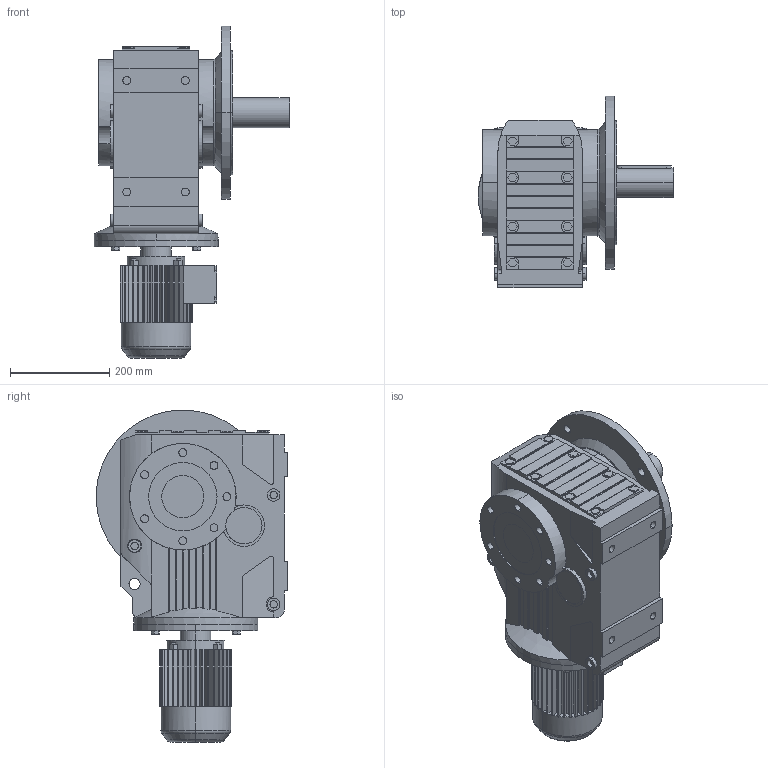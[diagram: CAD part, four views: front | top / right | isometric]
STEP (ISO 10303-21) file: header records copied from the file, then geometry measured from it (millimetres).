
FILE_DESCRIPTION(('Open CASCADE Model'),'2;1');
FILE_NAME('Open CASCADE Shape Model','2021-07-20T14:39:50',('Author'),( 'Open CASCADE'),'Open CASCADE STEP processor 6.3','Open CASCADE 6.3' ,'Unknown');
FILE_SCHEMA(('AUTOMOTIVE_DESIGN_CC2 { 1 2 10303 214 -1 1 5 4 }'));
Length unit declared in the file: millimetre
Products named in the file (5): 1_KF87DT80-A; KA37‵107_87.step; 萇儂_250-DT80-238-302-145-122.step; す瑩妗陑粣K_87.step; 楊擘K_87.step
Assembly tree (4 placements, depth 2):
  1_KF87DT80-A
    KA37‵107_87.step
    萇儂_250-DT80-238-302-145-122.step
    す瑩妗陑粣K_87.step
    楊擘K_87.step
Bounding box: 395 x 387 x 670 mm (x, y, z)
Volume: 28545523.5 mm3; surface area: 1301759.1 mm2
Topology: 4 solids, 4 shells, 871 faces, 2264 edges, 1472 vertices
Faces by surface type: plane 556, cylinder 297, cone 14, torus 4
Entity records: 65427 total; most frequent: CARTESIAN_POINT 23016, DIRECTION 7088, ORIENTED_EDGE 4524, PCURVE 4524, DEFINITIONAL_REPRESENTATION 4524, LINE 3625, VECTOR 3625, EDGE_CURVE 2262
